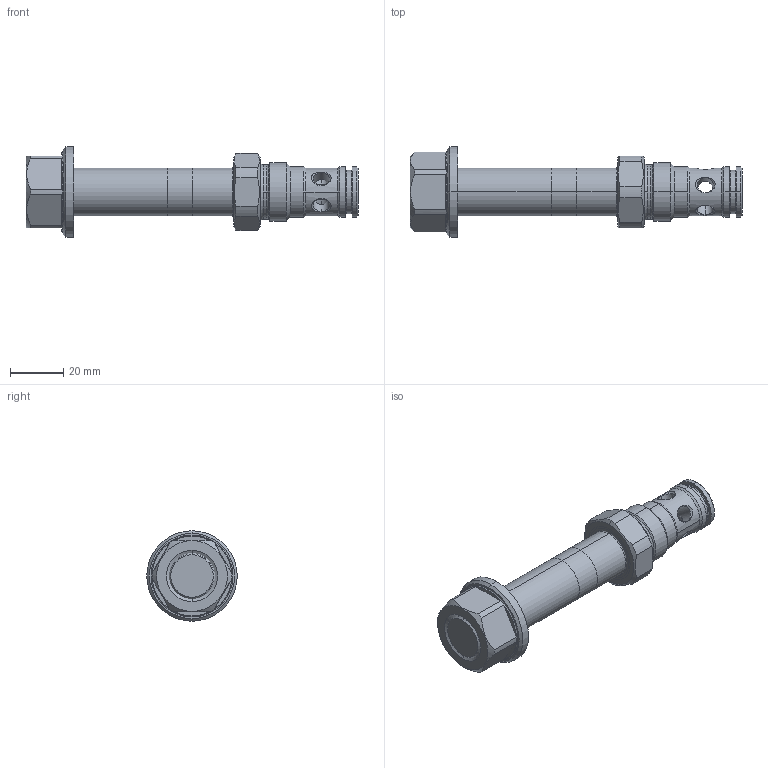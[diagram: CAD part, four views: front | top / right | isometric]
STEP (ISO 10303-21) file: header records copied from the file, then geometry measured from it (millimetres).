
FILE_DESCRIPTION (( 'STEP AP214' ), '1' );
FILE_NAME ('SVYPM22.STEP', '2014-07-14T12:01:49', ( '' ), ( '' ), 'SwSTEP 2.0', 'SolidWorks 2014', '' );
FILE_SCHEMA (( 'AUTOMOTIVE_DESIGN' ));
Length unit declared in the file: millimetre
Products named in the file (2): SVYPM22
Bounding box: 124.8 x 34 x 34 mm (x, y, z)
Volume: 42962.4 mm3; surface area: 16110 mm2
Topology: 4 solids, 4 shells, 162 faces, 368 edges, 219 vertices
Faces by surface type: cylinder 59, cone 44, plane 35, torus 24
Entity records: 6862 total; most frequent: CARTESIAN_POINT 1287, DIRECTION 852, ORIENTED_EDGE 736, EDGE_CURVE 368, AXIS2_PLACEMENT_3D 362, VERTEX_POINT 219, CIRCLE 198, EDGE_LOOP 179
